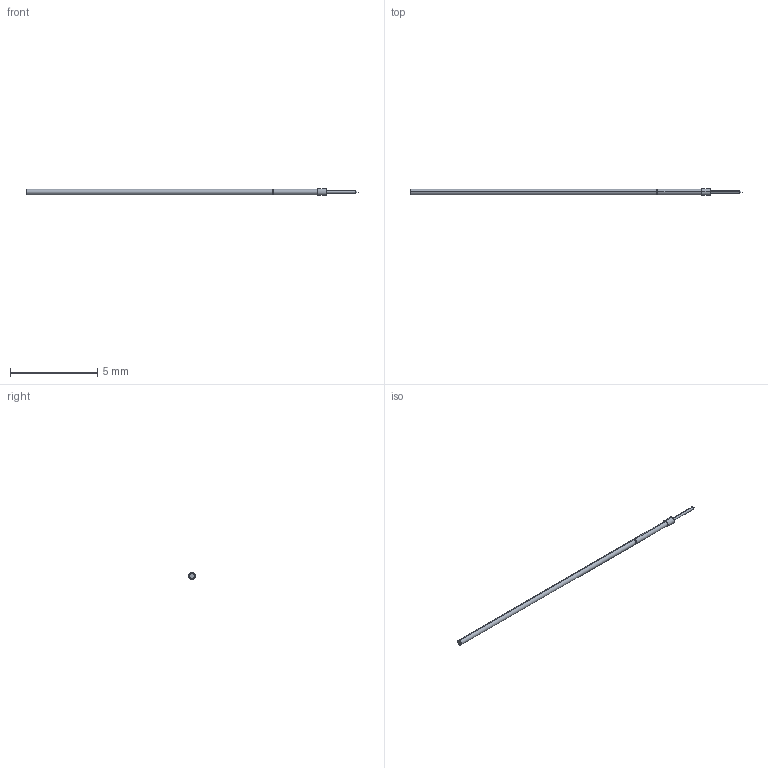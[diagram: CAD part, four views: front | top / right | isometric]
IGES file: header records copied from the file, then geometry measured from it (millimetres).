
Start section: SolidWorks IGES file using analytic representation for surfaces
Global section: file name: Z:\probe solid model mockups\Solidworks models\MEP-22B IGS files\MEP-22B.IGS; native system: SolidWorks 2006 by SolidWorks Corporation; preprocessor: SolidWorks 2006 by SolidWorks Corporation; author: tsakatani; date: 071219.154350; units: inch
Bounding box: 19 x 0.38 x 0.38 mm (x, y, z)
Surface area: 17.7 mm2 (no closed solid volume)
Topology: 0 solids, 0 shells, 17 faces, 136 edges, 134 vertices
Faces by surface type: revolution 10, bspline 7
